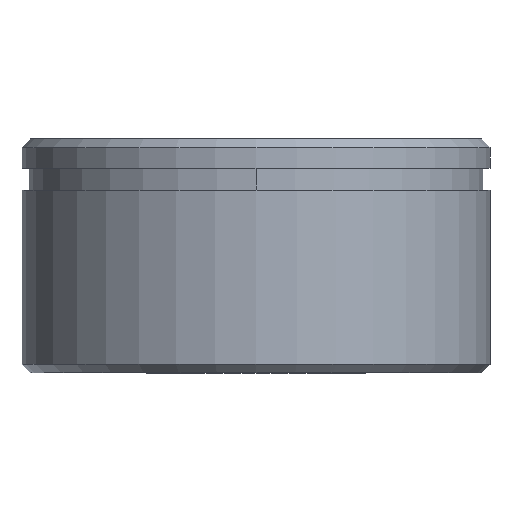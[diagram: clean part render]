
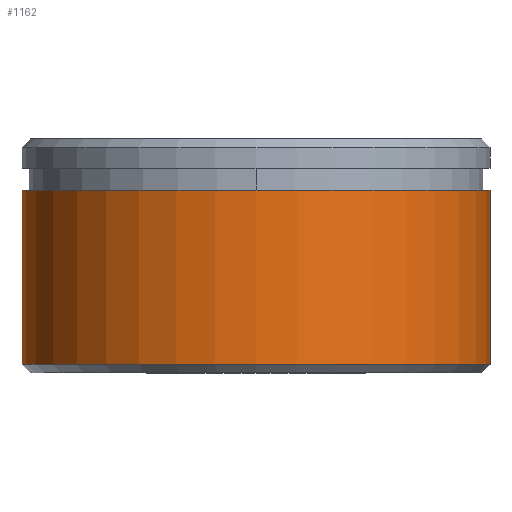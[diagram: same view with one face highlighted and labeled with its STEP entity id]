
A CAD part, front view. The second image highlights one B-rep face of the part: STEP entity #1162.
In plain terms, the highlighted cylindrical face has radius 16 mm (diameter 32 mm), a partial arc.
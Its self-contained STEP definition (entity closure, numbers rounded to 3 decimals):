
#80=DIRECTION('',(0.,0.,1.));
#81=VECTOR('',#80,11.9);
#82=CARTESIAN_POINT('',(16.,0.,0.6));
#83=LINE('',#82,#81);
#126=CARTESIAN_POINT('',(0.,0.,12.5));
#127=DIRECTION('',(0.,0.,1.));
#128=DIRECTION('',(-1.,0.,0.));
#129=AXIS2_PLACEMENT_3D('',#126,#127,#128);
#131=CARTESIAN_POINT('',(0.,0.,0.6));
#132=DIRECTION('',(0.,0.,-1.));
#133=DIRECTION('',(1.,0.,0.));
#134=AXIS2_PLACEMENT_3D('',#131,#132,#133);
#136=DIRECTION('',(0.,0.,1.));
#137=VECTOR('',#136,11.9);
#138=CARTESIAN_POINT('',(-16.,0.,
0.6));
#139=LINE('',#138,#137);
#844=CARTESIAN_POINT('',(16.,0.,0.6));
#845=CARTESIAN_POINT('',(-16.,0.,0.6));
#846=VERTEX_POINT('',#844);
#847=VERTEX_POINT('',#845);
#982=CARTESIAN_POINT('',(16.,0.,12.5));
#983=CARTESIAN_POINT('',(-16.,0.,12.5));
#984=VERTEX_POINT('',#982);
#985=VERTEX_POINT('',#983);
#1151=CARTESIAN_POINT('',(0.,0.,0.));
#1152=DIRECTION('',(0.,0.,1.));
#1153=DIRECTION('',(1.,0.,0.));
#1154=AXIS2_PLACEMENT_3D('',#1151,#1152,#1153);
#1155=CYLINDRICAL_SURFACE('',#1154,16.);
#1156=ORIENTED_EDGE('',*,*,#1097,.T.);
#1157=ORIENTED_EDGE('',*,*,#1070,.F.);
#1158=ORIENTED_EDGE('',*,*,#1040,.T.);
#1159=ORIENTED_EDGE('',*,*,#1067,.T.);
#1160=EDGE_LOOP('',(#1156,#1157,#1158,#1159));
#1161=FACE_OUTER_BOUND('',#1160,.F.);
#130=CIRCLE('',#129,16.);
#135=CIRCLE('',#134,16.);
#1040=EDGE_CURVE('',#846,#847,#135,.T.);
#1067=EDGE_CURVE('',#847,#985,#139,.T.);
#1070=EDGE_CURVE('',#846,#984,#83,.T.);
#1097=EDGE_CURVE('',#985,#984,#130,.T.);
#1162=ADVANCED_FACE('',(#1161),#1155,.T.);
